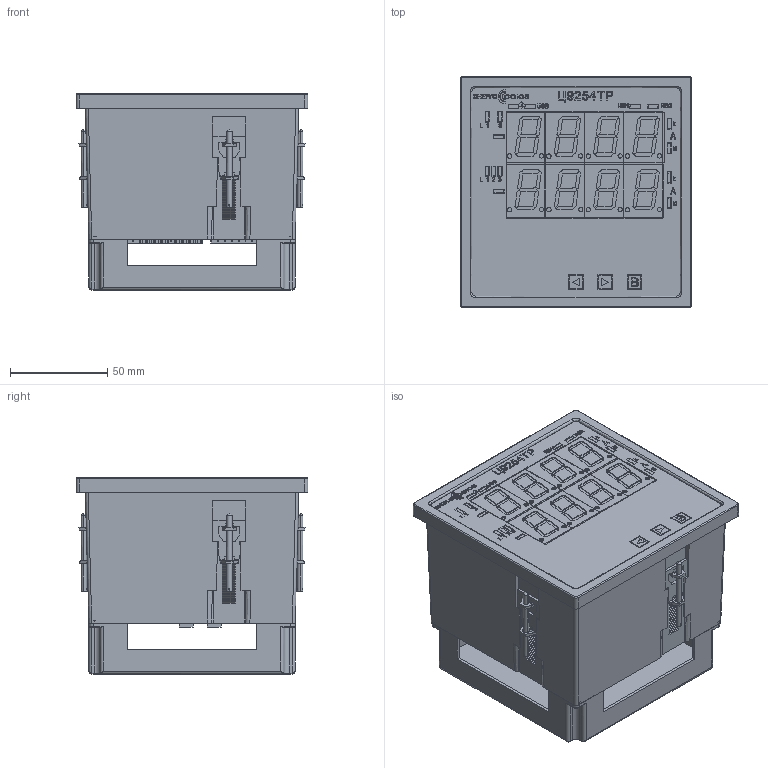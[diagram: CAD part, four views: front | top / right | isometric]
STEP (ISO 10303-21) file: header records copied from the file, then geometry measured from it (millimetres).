
FILE_DESCRIPTION (( 'STEP AP214' ), '1' );
FILE_NAME ('c9254tr-2c_120õ120õ103.STEP', '2025-10-15T11:02:21', ( '' ), ( '' ), 'SwSTEP 2.0', 'SolidWorks 2021', '' );
FILE_SCHEMA (( 'AUTOMOTIVE_DESIGN' ));
Length unit declared in the file: millimetre
Products named in the file (60): body_elc_120x120x103_step; 15EDGVC-3.5-sidewall; Êîïèÿ 15EDGRC-3.5-06P^c9254tr-2c_; Êîïèÿ no-color-led-5^c9254tr-2c_; Êîïèÿ 15EDGVC-3.5-sidewall^Êîïèÿ 15EDGRC-3.5-06P_c9254tr-2c_; Ñêîáà ÖÔ9285; 15EDGRC-3.5-06P; Êîïèÿ (5) Êîïèÿ indicator-FYS-8011^c9254tr-2c__step; Êîïèÿ (4) Êîïèÿ indicator-FYS-8011^c9254tr-2c__step; 15EDGRC-3.5-04P; Êîïèÿ mark-FYS-8011^Êîïèÿ (2) Êîïèÿ indicator-FYS-8011_c9254tr-2c__step; 櫻蠉錪2^DG271R-5.0-4-x; ñêîáà-2_step; Êîïèÿ (6) Êîïèÿ indicator-FYS-8011^c9254tr-2c__step; Êîïèÿ mark-FYS-8011^Êîïèÿ (7) Êîïèÿ indicator-FYS-8011_c9254tr-2c__step; no-color-led-5; User Library-Micro USB_typeB_10118192-0001LF FCI; orange-led-with-border_step; 櫻蠉錪5^DG271R-5.0-4-x_step; Êîïèÿ Êîïèÿ ïåðåäíÿÿ_ïàíåëü^c9254tr-2c__step; Çàäíÿÿ êðûøêà ÖÔ9285; Êîïèÿ (8) Êîïèÿ indicator-FYS-8011^c9254tr-2c__step; 櫻蠉錪5^DG271R-5.0-2-x; c9254tr-2c_120õ120õ103; 櫻蠉錪6^DG271R-5.0-4-x_step; Êîïèÿ (7) Êîïèÿ indicator-FYS-8011^c9254tr-2c__step; DG271R-5.0-4-x_step; DG271R-5.0-2-x; Êîïèÿ orange-led-with-border^c9254tr-2c__step; indicator-FYS-8011; 3-input-label^c9254tr-2c__step; Êîïèÿ mark-FYS-8011^Êîïèÿ (4) Êîïèÿ indicator-FYS-8011_c9254tr-2c__step; Êîïèÿ (2) Êîïèÿ indicator-FYS-8011^c9254tr-2c__step; green-led-5_step; ñêîáà-1_step; DG271R-body; ñêîáà-1; main-upper-label^c9254tr-2c__step; red-led-with-border_step; Êîïèÿ (3) Êîïèÿ indicator-FYS-8011^c9254tr-2c__step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
Assembly tree (99 placements, depth 3):
  Êîïèÿ mark-FYS-8011^Êîïèÿ (2) Êîïèÿ indicator-FYS-8011_c9254tr-2c__step
  Êîïèÿ mark-FYS-8011^Êîïèÿ (7) Êîïèÿ indicator-FYS-8011_c9254tr-2c__step
  c9254tr-2c_120õ120õ103
    body_elc_120x120x103_step
    Êîïèÿ Êîïèÿ ïåðåäíÿÿ_ïàíåëü^c9254tr-2c__step
    border_for_body_elc_120x120x103
    Êîïèÿ Ñáîðêà ñêîáà ÖÔ9285^c9254tr-2c__step  x4
      Ñêîáà ÖÔ9285
      Âèíò äëÿ ñêîáû ÖÔ9285_step
    Çàäíÿÿ êðûøêà ÖÔ9285
    Êîïèÿ no-color-led-5^c9254tr-2c_  x5
    blue-led-5_step
    green-led-5_step  x3
    Êîïèÿ orange-led-with-border^c9254tr-2c__step
    red-led-with-border_step
    no-color-led-5  x3
    orange-led-with-border_step
    Êîïèÿ Êîïèÿ indicator-FYS-8011^c9254tr-2c__step
      indicator-FYS-8011_step
    Êîïèÿ (2) Êîïèÿ indicator-FYS-8011^c9254tr-2c__step
      indicator-FYS-8011_step
    Êîïèÿ (3) Êîïèÿ indicator-FYS-8011^c9254tr-2c__step
      indicator-FYS-8011_step
    Êîïèÿ (4) Êîïèÿ indicator-FYS-8011^c9254tr-2c__step
      indicator-FYS-8011
    Êîïèÿ (5) Êîïèÿ indicator-FYS-8011^c9254tr-2c__step
      indicator-FYS-8011
    Êîïèÿ (6) Êîïèÿ indicator-FYS-8011^c9254tr-2c__step
      indicator-FYS-8011
    Êîïèÿ (7) Êîïèÿ indicator-FYS-8011^c9254tr-2c__step
      indicator-FYS-8011_step
    Êîïèÿ (8) Êîïèÿ indicator-FYS-8011^c9254tr-2c__step
      indicator-FYS-8011_step
    15EDGRC-3.5-04P  x2
      Êîïèÿ 15EDGRC-3.5-01P^15EDGRC-3.5-04P
      Êîïèÿ 15EDGVC-3.5-sidewall^15EDGRC-3.5-04P
    Êîïèÿ 15EDGRC-3.5-06P^c9254tr-2c_  x2
      Êîïèÿ 15EDGRC-3.5-01P^Êîïèÿ 15EDGRC-3.5-06P_c9254tr-2c_
      Êîïèÿ 15EDGVC-3.5-sidewall^Êîïèÿ 15EDGRC-3.5-06P_c9254tr-2c_
    15EDGRC-3.5-06P
      15EDGRC-3.5-01P  x6
      15EDGVC-3.5-sidewall  x2
    DG271R-5.0-4-x_step
      DG271R-body_step  x4
      ñêîáà-1_step  x4
      ñêîáà-2_step
      櫻蠉錪5^DG271R-5.0-4-x_step  x4
      櫻蠉錪2^DG271R-5.0-4-x
    DG271R-5.0-2-x
      DG271R-body  x2
      ñêîáà-1  x2
      ñêîáà-2
      櫻蠉錪5^DG271R-5.0-2-x  x2
      櫻蠉錪2^DG271R-5.0-2-x
    RS-485-label^c9254tr-2c__step
    3-input-label^c9254tr-2c__step
    main-upper-label^c9254tr-2c__step
    User Library-Micro USB_typeB_10118192-0001LF FCI
  櫻蠉錪6^DG271R-5.0-4-x_step
  Êîïèÿ mark-FYS-8011^Êîïèÿ (4) Êîïèÿ indicator-FYS-8011_c9254tr-2c__step
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Bounding box: 119 x 119 x 100.8 mm (x, y, z)
Volume: 181128.4 mm3; surface area: 220145.3 mm2
Topology: 264 solids, 264 shells, 8697 faces, 22363 edges, 14466 vertices
Faces by surface type: plane 5884, cylinder 1709, bspline 916, cone 128, sphere 48, torus 12
Entity records: 227575 total; most frequent: CARTESIAN_POINT 82594, ORIENTED_EDGE 26668, DIRECTION 20480, EDGE_CURVE 13334, LINE 9180, VECTOR 9180, VERTEX_POINT 8716, AXIS2_PLACEMENT_3D 5650
